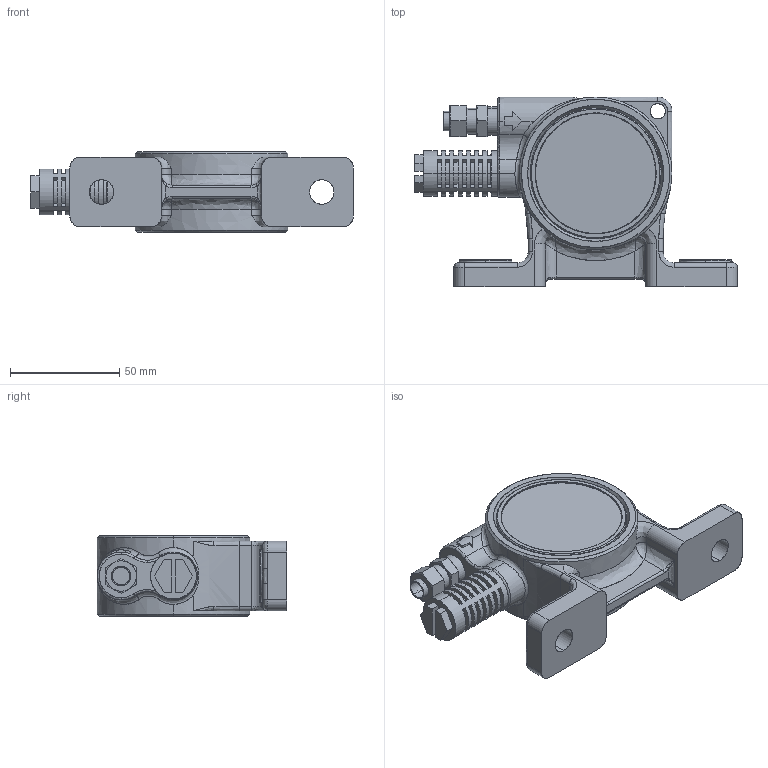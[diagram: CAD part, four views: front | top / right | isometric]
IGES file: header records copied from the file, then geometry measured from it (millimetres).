
Start section: SolidWorks IGES file using analytic representation for surfaces
Global section: file name: V:\WORK\08133\HP 寸法図\ball\CH19A\test_A93000E-000 CH19A_defeature.IGS,15; native system: HSolidWorks 2018; preprocessor: SolidWorks 2018; author: n-udagawa; date: 230112.112507; units: millimetre
Bounding box: 148 x 87 x 37 mm (x, y, z)
Surface area: 37223.9 mm2 (no closed solid volume)
Topology: 0 solids, 0 shells, 354 faces, 6327 edges, 7305 vertices
Faces by surface type: bspline 242, revolution 112
